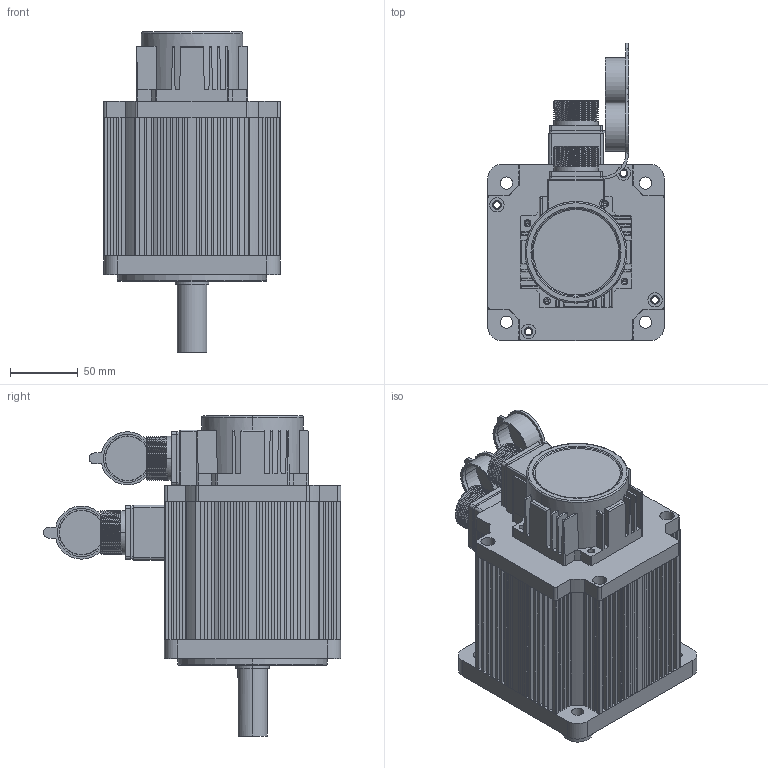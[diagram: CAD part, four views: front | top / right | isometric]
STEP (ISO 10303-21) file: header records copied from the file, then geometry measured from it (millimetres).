
FILE_DESCRIPTION (( 'STEP AP203' ), '1' );
FILE_NAME ('130 6N.M.STEP', '2018-06-25T01:22:38', ( '微软用户' ), ( '微软中国' ), 'SwSTEP 2.0', 'SolidWorks 2016', '' );
FILE_SCHEMA (( 'CONFIG_CONTROL_DESIGN' ));
Length unit declared in the file: millimetre
Products named in the file (12): 15郋瑤脣; 130綴裔; 15郋瑤脣釱; 晤鎢ん欶; 130 6N.M; 130 6N.M粣; 130ヶ裔; 130儂褲; 4郋瑤脣; 瑤脣價釱; 瑤脣々菜; 130-4郋瑤脣釱
Assembly tree (12 placements, depth 3):
  130 6N.M
    130ヶ裔
    130綴裔
    晤鎢ん欶
    130 6N.M粣
    130儂褲
    130-4郋瑤脣釱
      4郋瑤脣
      瑤脣價釱
      瑤脣々菜
    15郋瑤脣釱
      15郋瑤脣
      瑤脣々菜
Bounding box: 130 x 219.29 x 236 mm (x, y, z)
Volume: 809024 mm3; surface area: 377593 mm2
Topology: 11 solids, 11 shells, 1351 faces, 3627 edges, 2338 vertices
Faces by surface type: plane 651, cylinder 590, sphere 36, cone 35, torus 31, bspline 8
Entity records: 45116 total; most frequent: CARTESIAN_POINT 11126, DIRECTION 6865, ORIENTED_EDGE 6842, EDGE_CURVE 3421, AXIS2_PLACEMENT_3D 2406, VERTEX_POINT 2238, LINE 2053, VECTOR 2053
